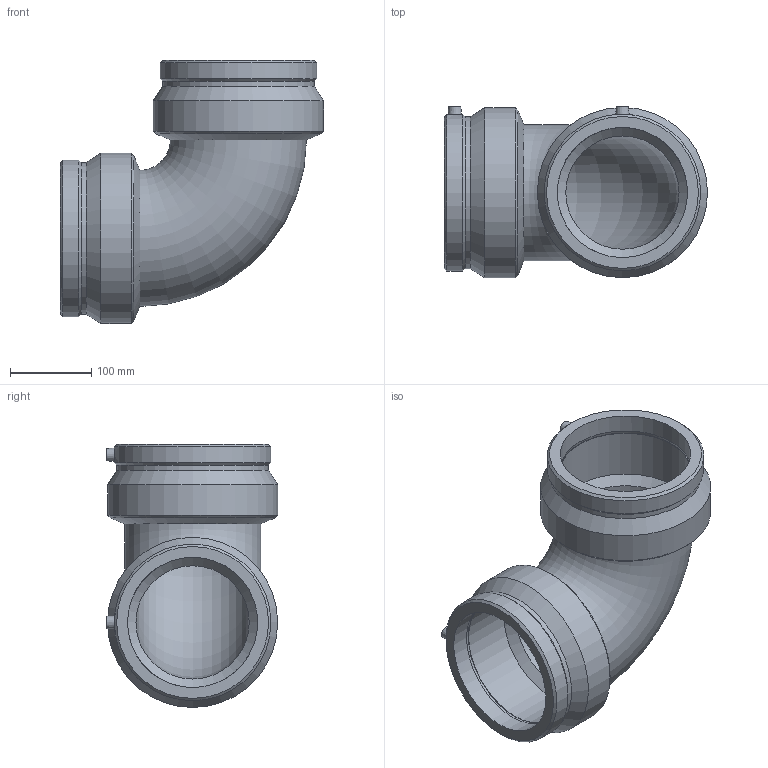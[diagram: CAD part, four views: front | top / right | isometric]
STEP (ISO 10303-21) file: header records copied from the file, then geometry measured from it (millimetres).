
FILE_DESCRIPTION(/* description */ ('PLASSON 90° ELBOW 160'),/* implementation_level */ '2;1');
FILE_NAME(/* name */ '490504160.stp',/* time_stamp */ '2026-03-22T13:12:51+02:00',/* author */ ('KIM'),/* organization */ (''),/* preprocessor_version */ 'ST-DEVELOPER v20.1',/* originating_system */ 'Autodesk Inventor 2026',/* authorisation */ '');
FILE_SCHEMA (('AUTOMOTIVE_DESIGN { 1 0 10303 214 3 1 1 }'));
Length unit declared in the file: millimetre
Products named in the file (1): 490504160
Bounding box: 323 x 210.5 x 323 mm (x, y, z)
Volume: 3499376.7 mm3; surface area: 445963.9 mm2
Topology: 1 solids, 1 shells, 44 faces, 88 edges, 54 vertices
Faces by surface type: cone 18, cylinder 14, plane 10, torus 2
Full cylindrical faces by diameter (mm): 4 x2, 10 x2, 160 x4, 186.512 x2, 192.28 x2, 209 x2
Entity records: 1269 total; most frequent: CARTESIAN_POINT 275, DIRECTION 220, ORIENTED_EDGE 176, AXIS2_PLACEMENT_3D 95, EDGE_CURVE 88, EDGE_LOOP 54, VERTEX_POINT 54, CIRCLE 50
